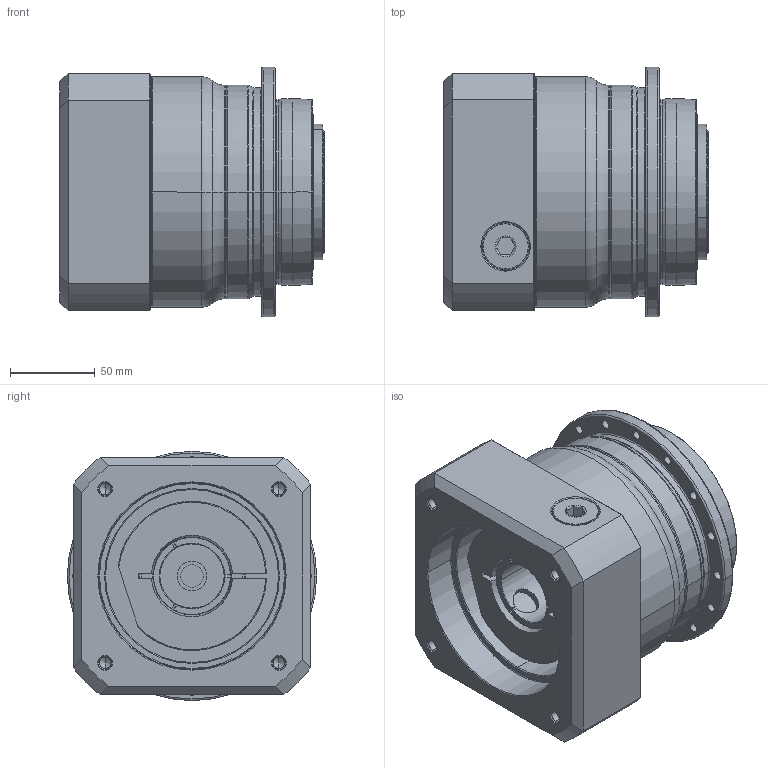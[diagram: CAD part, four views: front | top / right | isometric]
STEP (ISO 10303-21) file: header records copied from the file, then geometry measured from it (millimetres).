
FILE_DESCRIPTION((''),'2;1');
FILE_NAME('AH110_1ST_38-P0409900101_ASM','2016-08-08T',('d00435'),(''),'PRO/ENGINEER BY PARAMETRIC TECHNOLOGY CORPORATION, 2008410','PRO/ENGINEER BY PARAMETRIC TECHNOLOGY CORPORATION, 2008410','');
FILE_SCHEMA(('CONFIG_CONTROL_DESIGN'));
Length unit declared in the file: millimetre
Products named in the file (8): P0278400003; P0359400003; P1318400501; P0409900101; P0503900012; P0912405001; 21711422019; AH110_1ST_38-P0409900101_ASM
Assembly tree (7 placements, depth 2):
  AH110_1ST_38-P0409900101_ASM
    P0278400003
    P0359400003
    P1318400501
    P0409900101
    P0503900012
    P0912405001
    21711422019
Bounding box: 156 x 147 x 147 mm (x, y, z)
Volume: 1696208.3 mm3; surface area: 282131.8 mm2
Topology: 8 solids, 54 shells, 728 faces, 1707 edges, 1057 vertices
Faces by surface type: cylinder 320, cone 192, plane 144, torus 58, bspline 14
Entity records: 25537 total; most frequent: CARTESIAN_POINT 8323, DIRECTION 3979, ORIENTED_EDGE 3126, AXIS2_PLACEMENT_3D 1698, EDGE_CURVE 1653, VERTEX_POINT 1057, CIRCLE 959, EDGE_LOOP 888
